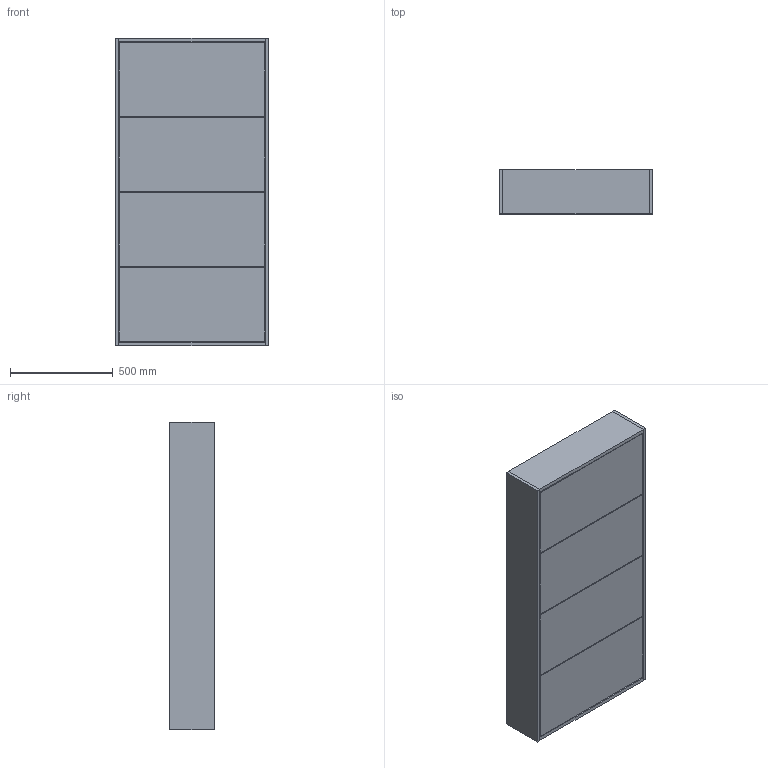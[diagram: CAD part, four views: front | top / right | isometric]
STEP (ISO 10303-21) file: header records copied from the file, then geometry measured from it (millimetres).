
FILE_DESCRIPTION(('HOOPS Exchange Step'),'2;1');
FILE_NAME('C:\Users\gyorg\AppData\Local\Packages\Shapr3D.Shapr3D_j403pzjkqtqbj\TempState\export\temp_export','2026-09-16T06:36:12+02:00',('gyorg'),('Shapr3D Limited'),'HOOPS Exchange 2026.3','Shapr3D','Authorized');
FILE_SCHEMA( ('AP242_MANAGED_MODEL_BASED_3D_ENGINEERING_MIM_LF {1 0 10303 442 1 1 4}') );
Length unit declared in the file: millimetre
Products named in the file (9): Ütközők nagy szekrény; Linear Pattern 01; Botník vyklopny 1 řady levy_100246; Botník vyklopny 1 řady pravy_100246; 100246_3D.STEP; Nagy ajtólapok; Nagy szekrény; cipősszekrény.step; root
Assembly tree (8 placements, depth 4):
  root
    cipősszekrény.step
      Ütközők nagy szekrény
      Linear Pattern 01
      100246_3D.STEP
        Botník vyklopny 1 řady levy_100246
        Botník vyklopny 1 řady pravy_100246
      Nagy ajtólapok
      Nagy szekrény
Bounding box: 750 x 215 x 1500 mm (x, y, z)
Volume: 41932649.8 mm3; surface area: 5913214.9 mm2
Topology: 32 solids, 32 shells, 1024 faces, 2936 edges, 1992 vertices
Faces by surface type: plane 880, cylinder 144
Full cylindrical faces by diameter (mm): 4 x24, 5 x32, 8 x12, 10 x8, 14 x8, 18 x8, 19 x4
Entity records: 33901 total; most frequent: CARTESIAN_POINT 5970, ORIENTED_EDGE 5872, DIRECTION 5420, EDGE_CURVE 2936, VECTOR 2536, LINE 2536, VERTEX_POINT 1992, AXIS2_PLACEMENT_3D 1442
